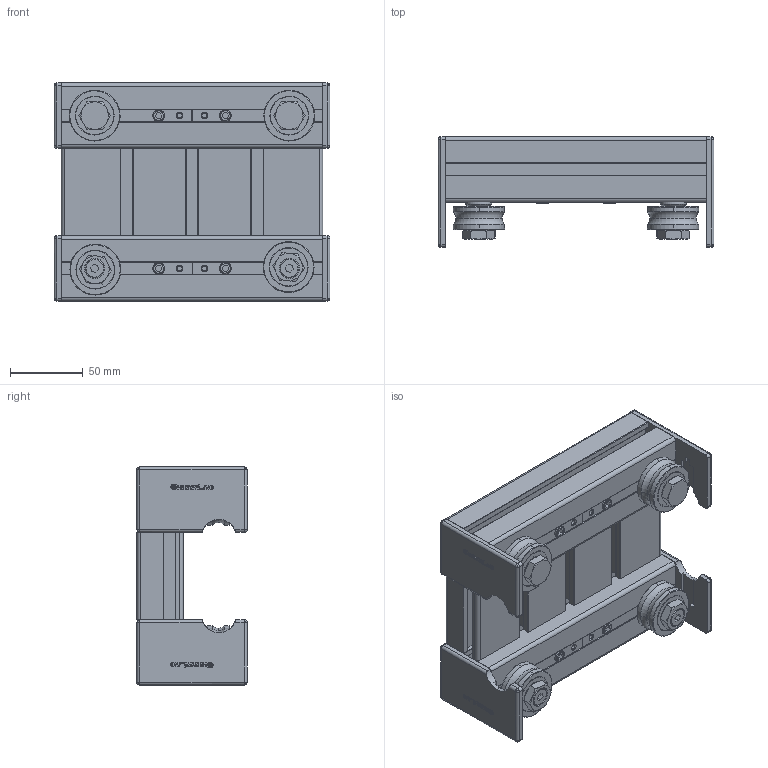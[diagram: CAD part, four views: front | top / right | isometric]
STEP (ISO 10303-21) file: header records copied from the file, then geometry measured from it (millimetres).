
FILE_DESCRIPTION (( 'STEP AP214' ), '1' );
FILE_NAME ('1.8133 Kelkka 45.STEP', '2026-03-26T11:09:12', ( '' ), ( '' ), 'SwSTEP 2.0', 'SolidWorks 2025', '' );
FILE_SCHEMA (( 'AUTOMOTIVE_DESIGN' ));
Length unit declared in the file: millimetre
Products named in the file (7): 1.1044 Päätysuoja lineaarikelkalle 12 oikea; 1.1045 Päätysuoja lineaarikelkalle 12 vasen; Väliprofiili_Default<As Machined>; Kiinnityssarja 12; 1.8133 Kelkka 45; Sivuprofiili_Default<As Machined>; Kiinnityssarja 12 säädettävä
Assembly tree (11 placements, depth 2):
  1.8133 Kelkka 45
    Sivuprofiili_Default<As Machined>  x2
    Väliprofiili_Default<As Machined>
    Kiinnityssarja 12  x2
    Kiinnityssarja 12 säädettävä  x2
    1.1044 Päätysuoja lineaarikelkalle 12 oikea  x2
    1.1045 Päätysuoja lineaarikelkalle 12 vasen  x2
Bounding box: 190 x 76 x 150.2 mm (x, y, z)
Volume: 653578.9 mm3; surface area: 364449.8 mm2
Topology: 81 solids, 81 shells, 2725 faces, 7343 edges, 4710 vertices
Faces by surface type: plane 1176, cylinder 767, bspline 370, cone 180, sphere 128, torus 104
Entity records: 69808 total; most frequent: CARTESIAN_POINT 18485, ORIENTED_EDGE 8366, DIRECTION 7848, EDGE_CURVE 4183, VERTEX_POINT 2738, AXIS2_PLACEMENT_3D 2717, LINE 2414, VECTOR 2414
